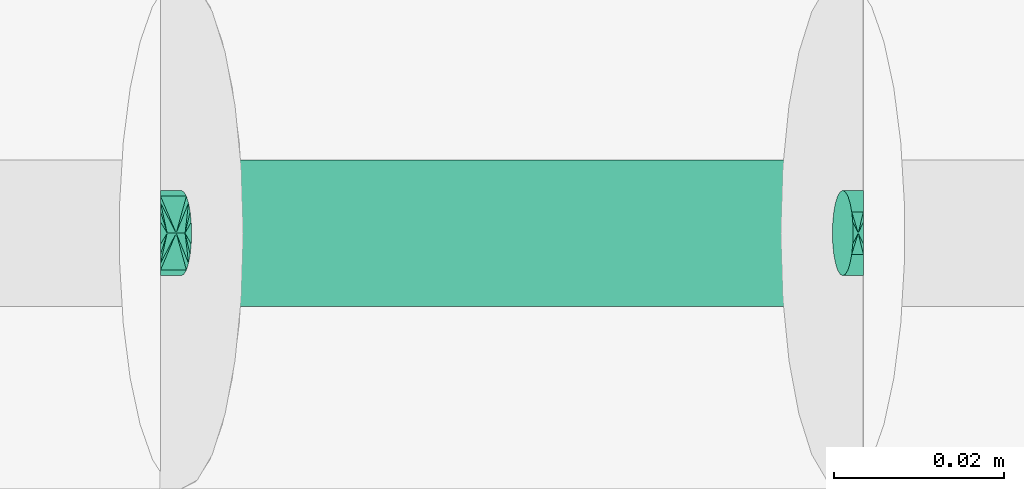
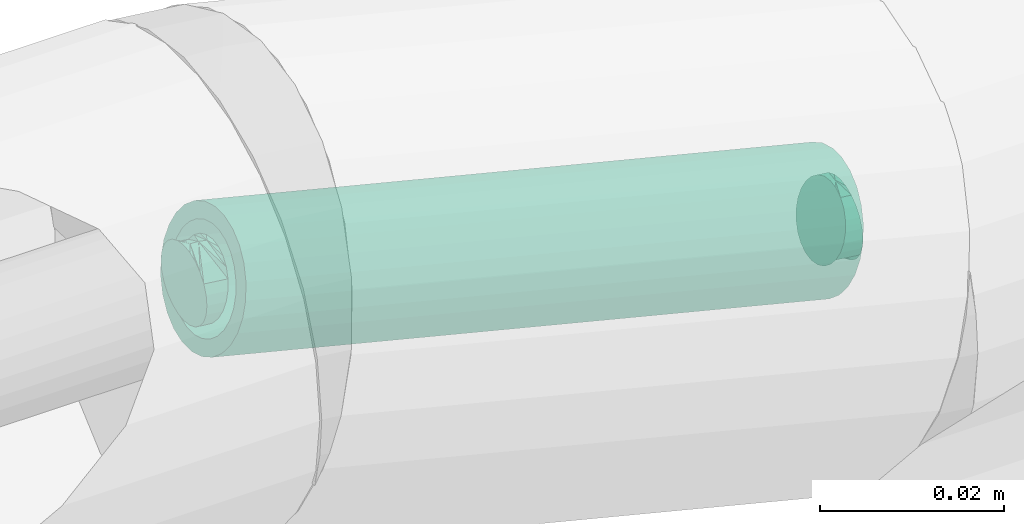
# One storey, part 98 of 156: 2 flow fittings, 1 flow segment.
"""IFC2X3 building model written with IfcOpenShell, lengths in millimetres."""

import ifcopenshell
import ifcopenshell.guid

model = None  # the IFC model being written
_history = None  # IfcOwnerHistory: only IFC2X3 demands one
_inside = {}  # id of a spatial element -> (the spatial element, [elements in it])
_under = {}  # id of a project, library or spatial element -> (it, [spatial elements below it])
_declared = {}  # id of a project -> (the project, [libraries it declares])
_typed = {}  # id of a type object -> (the type object, [elements of that type])
_made_of = {}  # id of a material, layer set ... -> (it, [elements and type objects made of it])


def new_model(schema):
    """Start an empty IFC model of exactly this schema.

    Asked for "IFC4X3", IfcOpenShell would pick the latest addendum, in which some entities
    have other attributes; the version numbers below select the first issue.
    IFC2X3 requires an IfcOwnerHistory on every rooted entity: one is made here for all.
    """
    global model, _history
    if schema == "IFC4X3":
        model = ifcopenshell.file(schema_version=(4, 3, 0, 0))
    else:
        model = ifcopenshell.file(schema=schema)
    _inside.clear()
    _under.clear()
    _declared.clear()
    _typed.clear()
    _made_of.clear()
    _history = None
    if model.schema == "IFC2X3":
        org = make("IfcOrganization", Name="unknown")
        user = make(
            "IfcPersonAndOrganization",
            ThePerson=make("IfcPerson", FamilyName="unknown"),
            TheOrganization=org,
        )
        app = make(
            "IfcApplication",
            ApplicationDeveloper=org,
            Version="unknown",
            ApplicationFullName="unknown",
            ApplicationIdentifier="unknown",
        )
        _history = make(
            "IfcOwnerHistory",
            OwningUser=user,
            OwningApplication=app,
            ChangeAction="ADDED",
            CreationDate=0,
        )
    return model


def make(cls, **values):
    """One entity of the class cls with the attributes given. An attribute that is None is left unset."""
    return model.create_entity(
        cls, **{name: value for name, value in values.items() if value is not None}
    )


def entity(cls, *values):
    """Any entity or typed value of the class cls, its attributes in the order of the schema. None: left unset."""
    e = model.create_entity(cls)
    for i, value in enumerate(values):
        if value is not None:
            e[i] = value
    return e


def rooted(cls, **values):
    """An entity with a GlobalId (a new one), such as an element, a storey or a relation."""
    return make(cls, GlobalId=ifcopenshell.guid.new(), OwnerHistory=_history, **values)


def si_unit(unit_type, name, prefix=None):
    """IfcSIUnit, for example si_unit("LENGTHUNIT", "METRE", prefix="MILLI")."""
    return make("IfcSIUnit", UnitType=unit_type, Prefix=prefix, Name=name)


def converted_unit(unit_type, name, factor, base, dimensions=None, offset=None):
    """IfcConversionBasedUnit, such as the inch: factor (a typed value) times the base unit."""
    return make(
        "IfcConversionBasedUnit"
        if offset is None
        else "IfcConversionBasedUnitWithOffset",
        ConversionOffset=offset,
        Dimensions=None
        if dimensions is None
        else entity("IfcDimensionalExponents", *dimensions),
        UnitType=unit_type,
        Name=name,
        ConversionFactor=make(
            "IfcMeasureWithUnit", ValueComponent=factor, UnitComponent=base
        ),
    )


def derived_unit(unit_type, elements):
    """IfcDerivedUnit: a product of units, each with its exponent."""
    return make(
        "IfcDerivedUnit",
        Elements=[
            make("IfcDerivedUnitElement", Unit=unit, Exponent=power)
            for unit, power in elements
        ],
        UnitType=unit_type,
    )


def assignment(units):
    """IfcUnitAssignment: the units of a project."""
    return None if units is None else make("IfcUnitAssignment", Units=units)


def point(xyz):
    """IfcCartesianPoint."""
    return None if xyz is None else make("IfcCartesianPoint", Coordinates=xyz)


def direction(xyz):
    """IfcDirection."""
    return None if xyz is None else make("IfcDirection", DirectionRatios=xyz)


def frame(location, z_axis=None, x_axis=None):
    """IfcAxis2Placement3D, a coordinate frame: its origin and axes. An axis left out is left unset."""
    return make(
        "IfcAxis2Placement3D",
        Location=point(location),
        Axis=direction(z_axis),
        RefDirection=direction(x_axis),
    )


def frame_2d(location, x_axis=None):
    """IfcAxis2Placement2D, a coordinate frame in the plane: its origin and x axis."""
    return make(
        "IfcAxis2Placement2D", Location=point(location), RefDirection=direction(x_axis)
    )


def origin_with_axes():
    """The frame at (0, 0, 0) with the z axis (0, 0, 1) and the x axis (1, 0, 0) written out."""
    return frame((0.0, 0.0, 0.0), z_axis=(0.0, 0.0, 1.0), x_axis=(1.0, 0.0, 0.0))


def origin_2d_with_axis():
    """The frame at (0, 0) in the plane with the x axis (1, 0) written out."""
    return frame_2d((0.0, 0.0), x_axis=(1.0, 0.0))


def place(relative_to, where):
    """IfcLocalPlacement: puts the frame where relative to a parent placement (None: the world)."""
    return make(
        "IfcLocalPlacement", PlacementRelTo=relative_to, RelativePlacement=where
    )


def context(
    kind, dimensions, precision=None, world=None, true_north=None, identifier=None
):
    """IfcGeometricRepresentationContext, for example the 3D "Model" context."""
    return make(
        "IfcGeometricRepresentationContext",
        ContextIdentifier=identifier,
        ContextType=kind,
        CoordinateSpaceDimension=dimensions,
        Precision=precision,
        WorldCoordinateSystem=world,
        TrueNorth=true_north,
    )


def subcontext(parent, identifier, kind, view, scale=None):
    """IfcGeometricRepresentationSubContext, for example "Body" below "Model"."""
    return make(
        "IfcGeometricRepresentationSubContext",
        ContextIdentifier=identifier,
        ContextType=kind,
        ParentContext=parent,
        TargetScale=scale,
        TargetView=view,
    )


def project(units=None, contexts=None):
    """IfcProject with its units and contexts."""
    return rooted(
        "IfcProject",
        Name="project",
        RepresentationContexts=contexts,
        UnitsInContext=assignment(units),
    )


def spatial(cls, under=None, at=None, **own):
    """A site, building, storey or space (cls), placed at a placement, below another one or the project."""
    s = rooted(cls, ObjectPlacement=at, **own)
    if under is not None:
        _under.setdefault(under.id(), (under, []))[1].append(s)
    return s


def profile(cls, at=None, kind="AREA", **sizes):
    """A parametric profile (cls). Its sizes go by their IFC names, for example OverallWidth=200.0."""
    return make(cls, ProfileType=kind, Position=at, **sizes)


def hollow_circle(**sizes):
    """IfcCircleHollowProfileDef."""
    return profile("IfcCircleHollowProfileDef", **sizes)


def extrude(swept, where, along, depth):
    """IfcExtrudedAreaSolid: the profile swept, set in the frame where, extruded along a direction by depth."""
    return make(
        "IfcExtrudedAreaSolid",
        SweptArea=swept,
        Position=where,
        ExtrudedDirection=direction(along),
        Depth=depth,
    )


def faces_of(points, faces, orient=None, outer=None):
    """IfcFace entities. A face is a list of loops; a loop is a list of indices into points, from 0.

    orient and outer hold one flag for each loop. By default every Orientation is true, the
    first loop of a face is its IfcFaceOuterBound and the others are IfcFaceBound.
    """
    made = []
    for i, loops in enumerate(faces):
        bounds = []
        for j, loop in enumerate(loops):
            is_outer = j == 0 if outer is None else outer[i][j]
            bounds.append(
                make(
                    "IfcFaceOuterBound" if is_outer else "IfcFaceBound",
                    Bound=make("IfcPolyLoop", Polygon=[points[k] for k in loop]),
                    Orientation=True if orient is None else orient[i][j],
                )
            )
        made.append(make("IfcFace", Bounds=bounds))
    return made


def open_shell(faces, orient=None, outer=None):
    """The faces of one IfcOpenShell. surface_model builds it on its shared points."""
    return ("IfcOpenShell", faces, orient, outer)


def surface_model(cls, points, shells):
    """IfcFaceBasedSurfaceModel or IfcShellBasedSurfaceModel (cls): surfaces that need not close."""
    shared = [point(p) for p in points]
    made = [make(c, CfsFaces=faces_of(shared, fs, o, b)) for c, fs, o, b in shells]
    if cls == "IfcFaceBasedSurfaceModel":
        return make(cls, FbsmFaces=made)
    return make(cls, SbsmBoundary=made)


def shape(context_of_items, identifier, shape_type, items):
    """IfcShapeRepresentation: the items that make up one representation, for example the "Body"."""
    return make(
        "IfcShapeRepresentation",
        ContextOfItems=context_of_items,
        RepresentationIdentifier=identifier,
        RepresentationType=shape_type,
        Items=items,
    )


def source(mapping_origin, context_of_items, identifier, shape_type, items):
    """IfcRepresentationMap: a shape defined once, which mapped items show again and again."""
    return make(
        "IfcRepresentationMap",
        MappingOrigin=mapping_origin,
        MappedRepresentation=shape(context_of_items, identifier, shape_type, items),
    )


def transform(
    local_origin,
    x_axis=None,
    y_axis=None,
    z_axis=None,
    scale=None,
    scale2=None,
    scale3=None,
    uniform=True,
):
    """IfcCartesianTransformationOperator3D, or its non-uniform kind. x_axis, y_axis, z_axis: its Axis1, 2, 3."""
    if uniform:
        return make(
            "IfcCartesianTransformationOperator3D",
            Axis1=direction(x_axis),
            Axis2=direction(y_axis),
            LocalOrigin=point(local_origin),
            Scale=scale,
            Axis3=direction(z_axis),
        )
    return make(
        "IfcCartesianTransformationOperator3DnonUniform",
        Axis1=direction(x_axis),
        Axis2=direction(y_axis),
        LocalOrigin=point(local_origin),
        Scale=scale,
        Axis3=direction(z_axis),
        Scale2=scale2,
        Scale3=scale3,
    )


def mapped(mapping_source, mapping_target):
    """IfcMappedItem: shows the shape of a source again, moved by a transform."""
    return make(
        "IfcMappedItem", MappingSource=mapping_source, MappingTarget=mapping_target
    )


def made_of(thing, what):
    """Note that an element or type object is made of a material, layer set ...; save() writes the relation."""
    if what is not None:
        _made_of.setdefault(what.id(), (what, []))[1].append(thing)
    return thing


def type_object(cls, material=None, **own):
    """A type object (cls), such as IfcWallType, which elements share."""
    return made_of(rooted(cls, **own), material)


def element(
    cls,
    number,
    at=None,
    inside=None,
    cuts=None,
    type_object=None,
    material=None,
    context=None,
    identifier="Body",
    shape_type=None,
    held_by="IfcProductDefinitionShape",
    body=None,
    shapes=None,
    **own,
):
    """One element of the class cls, such as IfcWall. Its Tag is "e" and its number.

    at: its placement. inside: the storey or other place that contains it. cuts: it is an
    opening in that element (IfcRelVoidsElement). A single representation is given by context,
    identifier, shape_type and body (its items); several are given by shapes. held_by: the class
    of the entity that holds the representations. save() writes the other relations.
    """
    e = rooted(cls, Tag="e%d" % number, ObjectPlacement=at, **own)
    if body is not None:
        shapes = [shape(context, identifier, shape_type, body)]
    if shapes is not None:
        e.Representation = make(held_by, Representations=shapes)
    if inside is not None:
        _inside.setdefault(inside.id(), (inside, []))[1].append(e)
    if cuts is not None:
        rooted(
            "IfcRelVoidsElement", RelatingBuildingElement=cuts, RelatedOpeningElement=e
        )
    if type_object is not None:
        _typed.setdefault(type_object.id(), (type_object, []))[1].append(e)
    return made_of(e, material)


def aggregate(whole, parts):
    """IfcRelAggregates: a whole, such as a stair, and the parts it consists of."""
    return rooted("IfcRelAggregates", RelatingObject=whole, RelatedObjects=parts)


def save(model, path):
    """Write the relations noted so far, then the file.

    IfcRelAggregates (storeys below a building ...), IfcRelContainedInSpatialStructure (elements
    in a storey), IfcRelDefinesByType, IfcRelAssociatesMaterial and IfcRelDeclares: one each for
    every whole, place, type object, material and project.
    """
    for whole, parts in _under.values():
        aggregate(whole, parts)
    for where, things in _inside.values():
        rooted(
            "IfcRelContainedInSpatialStructure",
            RelatedElements=things,
            RelatingStructure=where,
        )
    for kind, things in _typed.values():
        rooted("IfcRelDefinesByType", RelatedObjects=things, RelatingType=kind)
    for what, things in _made_of.values():
        rooted("IfcRelAssociatesMaterial", RelatedObjects=things, RelatingMaterial=what)
    for by, libraries in _declared.values():
        rooted("IfcRelDeclares", RelatingContext=by, RelatedDefinitions=libraries)
    model.write(path)


model = new_model("IFC2X3")

# Units and contexts
model_context = context("Model", 3, precision=0.01, world=frame((0.0, 4.29681676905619e-09, 0.0)), true_north=direction((4.01073788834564e-13, 1.0)))
plan_context = context("Plan", 3, precision=0.01, world=frame((0.0, 4.29681676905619e-09, 0.0)), true_north=direction((4.01073788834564e-13, 1.0)))
body_context = subcontext(model_context, "Body", "Model", "MODEL_VIEW")
ifc_project = project(units=[converted_unit("PLANEANGLEUNIT", "DEGREE", entity("IfcPositiveLengthMeasure", 0.0174532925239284), si_unit("PLANEANGLEUNIT", "RADIAN"), dimensions=[0, 0, 0, 0, 0, 0, 0]), si_unit("AREAUNIT", "SQUARE_METRE"), si_unit("LENGTHUNIT", "METRE", prefix="MILLI"), si_unit("MASSUNIT", "GRAM", prefix="KILO"), si_unit("POWERUNIT", "WATT"), si_unit("PRESSUREUNIT", "PASCAL", prefix="KILO"), si_unit("FORCEUNIT", "NEWTON", prefix="KILO"), si_unit("ELECTRICVOLTAGEUNIT", "VOLT"), si_unit("ELECTRICCURRENTUNIT", "AMPERE"), si_unit("THERMODYNAMICTEMPERATUREUNIT", "DEGREE_CELSIUS"), si_unit("TIMEUNIT", "SECOND"), si_unit("VOLUMEUNIT", "CUBIC_METRE"), derived_unit("LINEARVELOCITYUNIT", [(si_unit("LENGTHUNIT", "METRE"), 1), (si_unit("TIMEUNIT", "SECOND"), -1)]), derived_unit("VOLUMETRICFLOWRATEUNIT", [(si_unit("VOLUMEUNIT", "CUBIC_METRE"), 1), (si_unit("TIMEUNIT", "SECOND"), -1)]), derived_unit("THERMALTRANSMITTANCEUNIT", [(si_unit("POWERUNIT", "WATT"), 1), (si_unit("THERMODYNAMICTEMPERATUREUNIT", "KELVIN"), -1), (si_unit("AREAUNIT", "SQUARE_METRE"), -1)]), derived_unit("SOUNDPRESSUREUNIT", [(si_unit("PRESSUREUNIT", "PASCAL"), 1)])], contexts=[model_context, plan_context])

# Site, building, storey
site_placement = place(None, frame((0.0, -4.29681676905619e-09, 0.0), z_axis=(0.0, 0.0, 1.0), x_axis=(1.0, 0.0, 0.0)))
site = spatial("IfcSite", under=ifc_project, at=site_placement, CompositionType="ELEMENT")
building_placement = place(site_placement, frame((0.0, 4.29681676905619e-09, 0.0), z_axis=(0.0, 0.0, 1.0), x_axis=(1.0, 0.0, 0.0)))
building = spatial("IfcBuilding", under=site, at=building_placement, Name="mc-building", CompositionType="ELEMENT")
storey_placement = place(building_placement, frame((0.0, 0.0, 205200.0), z_axis=(0.0, 0.0, 1.0), x_axis=(1.0, 0.0, 0.0)))
storey = spatial("IfcBuildingStorey", under=building, at=storey_placement, Name="Nivå D + 1,2 m", CompositionType="ELEMENT", Elevation=205200.0)

# Flow fittings
pipe_fitting_type = type_object("IfcPipeFittingType", Name="magi_pipe_elbow_short_001", PredefinedType="BEND")
shared_shape_1 = source(origin_with_axes(), body_context, "Body", "SurfaceModel", [
    surface_model("IfcShellBasedSurfaceModel", [(-1.23106, 0.0, -5.0), (-1.23106, -3.53553, -3.53553), (-1.23106, 1.2941, -4.82963), (-1.23106, 2.5, -4.33013), (-1.23106, 3.53553, -3.53553), (-1.23106, 4.82963, -1.2941), (-1.23106, 4.33013, -2.5), (-1.23106, -5.0, 0.0), (-1.23106, 4.33013, 2.5), (-1.23106, -2.5, -4.33013), (-1.23106, -1.2941, -4.82963), (-1.23106, -4.82963, -1.2941), (-1.23106, -4.33013, -2.5), (-1.23106, 5.0, 0.0), (-1.23106, 4.82963, 1.2941), (-1.23106, 1.2941, 4.82963), (-1.23106, 2.5, 4.33013), (-1.23106, 3.53553, 3.53553), (-1.23106, -3.53553, 3.53553), (-1.23106, -4.82963, 1.2941), (-1.23106, -4.33013, 2.5), (-1.23106, -2.5, 4.33013), (-1.23106, -1.2941, 4.82963), (-1.23106, 0.0, 5.0), (0.33681, 3.72855, -3.53553), (1.1943, 0.29857, -5.0), (0.88044, 1.55403, -4.82963), (0.58796, 2.72393, -4.33013), (-0.01838, 5.14929, 0.0), (0.14409, 4.49942, -2.5), (2.40698, -4.55214, 0.0), (2.05179, -3.1314, 3.53553), (1.50816, -0.95688, -4.82963), (2.05179, -3.1314, -3.53553), (1.80064, -2.12678, -4.33013), (2.24451, -3.90227, -2.5), (2.36566, -4.38685, -1.2941), (0.02294, 4.984, -1.2941), (0.02294, 4.984, 1.2941), (0.14409, 4.49942, 2.5), (0.33681, 3.72855, 3.53553), (0.58796, 2.72393, 4.33013), (0.88044, 1.55403, 4.82963), (1.50816, -0.95688, 4.82963), (2.24451, -3.90227, 2.5), (2.36566, -4.38685, 1.2941), (1.80064, -2.12678, 4.33013), (1.1943, 0.29857, 5.0), (0.60169, -4.88761, 0.0), (-0.45321, -4.9523, 0.0), (-0.62014, 5.03746, 0.0), (1.64079, -4.69452, 0.0)], [open_shell([[[0, 1, 2]], [[3, 2, 4]], [[5, 6, 4]], [[4, 2, 7]], [[4, 7, 8]], [[9, 1, 10]], [[1, 0, 10]], [[11, 7, 12]], [[1, 12, 7]], [[1, 7, 2]], [[13, 5, 4]], [[8, 14, 13]], [[7, 15, 8]], [[8, 15, 16]], [[17, 8, 16]], [[18, 15, 7]], [[19, 20, 7]], [[7, 20, 18]], [[21, 22, 18]], [[22, 15, 18]], [[15, 22, 23]], [[8, 13, 4]], [[24, 25, 26]], [[24, 26, 27]], [[28, 24, 29]], [[30, 25, 31]], [[24, 31, 25]], [[32, 33, 34]], [[33, 32, 35]], [[35, 30, 36]], [[35, 32, 25]], [[25, 30, 35]], [[28, 29, 37]], [[28, 38, 39]], [[39, 40, 24]], [[40, 41, 42]], [[40, 31, 24]], [[43, 40, 42]], [[30, 44, 45]], [[31, 44, 30]], [[31, 43, 46]], [[31, 40, 43]], [[47, 43, 42]], [[28, 39, 24]], [[48, 21, 18]], [[20, 49, 18]], [[43, 22, 21]], [[23, 42, 15]], [[23, 22, 47]], [[19, 49, 20]], [[40, 17, 16]], [[39, 8, 17]], [[14, 8, 50]], [[50, 13, 14]], [[50, 8, 39]], [[42, 16, 15]], [[19, 7, 49]], [[48, 18, 49]], [[46, 43, 21]], [[46, 48, 31]], [[43, 47, 22]], [[51, 44, 31]], [[48, 51, 31]], [[45, 51, 30]], [[39, 38, 50]], [[28, 50, 38]], [[44, 51, 45]], [[42, 23, 47]], [[17, 40, 39]], [[41, 40, 16]], [[42, 41, 16]], [[21, 48, 46]], [[12, 49, 11]], [[26, 0, 2]], [[25, 10, 0]], [[29, 4, 6]], [[4, 24, 3]], [[2, 3, 26]], [[50, 6, 5]], [[49, 7, 11]], [[12, 1, 49]], [[48, 9, 34]], [[48, 49, 1]], [[48, 1, 9]], [[32, 9, 10]], [[5, 13, 50]], [[50, 28, 37]], [[50, 37, 29]], [[27, 3, 24]], [[26, 3, 27]], [[36, 30, 51]], [[4, 29, 24]], [[26, 25, 0]], [[48, 34, 33]], [[34, 9, 32]], [[35, 36, 51]], [[48, 33, 51]], [[51, 33, 35]], [[10, 25, 32]], [[29, 6, 50]]])]),
])
for number, where, z_axis, x_axis, name in (
    (1, (330457.5, 459031.28638, 4218.32044000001), (0.0, 1.0, 0.0), (1.0, 0.0, 0.0), "magi_pipe_elbow_short_001"),
    (2, (330537.5, 459031.28638, 4198.32044000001), (0.0, 1.0, 0.0), (-1.0, 0.0, 0.0), "magi_pipe_elbow_short_001"),
):
    element("IfcFlowFitting", number, at=place(storey_placement, frame(where, z_axis=z_axis, x_axis=x_axis)), inside=storey, type_object=pipe_fitting_type, Name=name, context=body_context, shape_type="MappedRepresentation", body=[
        mapped(shared_shape_1, transform((0.0, 0.0, 0.0), scale=1.0)),
    ])

# Flow segment
pipe_segment_type = type_object("IfcPipeSegmentType", Name="Stålrør normaltykke", PredefinedType="RIGIDSEGMENT")
shared_shape_2 = source(origin_with_axes(), body_context, "Body", "SweptSolid", [
    extrude(hollow_circle(Radius=8.6, WallThickness=2.0, at=origin_2d_with_axis()), frame((0.0, 0.0, 0.0), z_axis=(1.0, 0.0, 0.0), x_axis=(0.0, 1.0, 0.0)), (0.0, 0.0, 1.0), 80.0),
])
flow_segment_placement = place(storey_placement, frame((330458.6943, 459031.28638, 4218.02187), z_axis=(0.242535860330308, 0.0, 0.970142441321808), x_axis=(0.970142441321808, 0.0, -0.242535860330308)))
element("IfcFlowSegment", 3, at=flow_segment_placement, inside=storey, type_object=pipe_segment_type, Name="Stålrør normaltykke", context=body_context, shape_type="MappedRepresentation", body=[
    mapped(shared_shape_2, transform((0.0, 0.0, 0.0), scale=1.0)),
])

save(model, "model.ifc")
